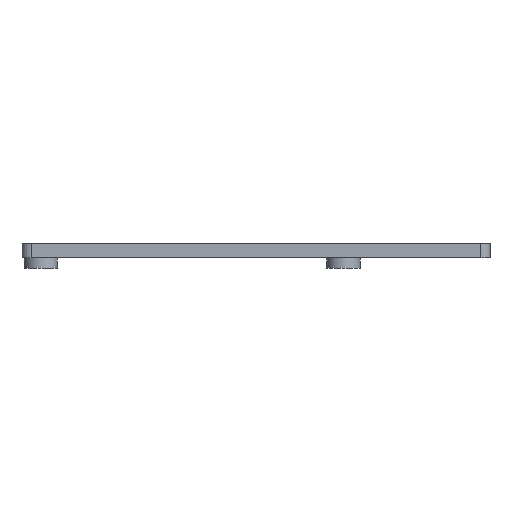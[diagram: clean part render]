
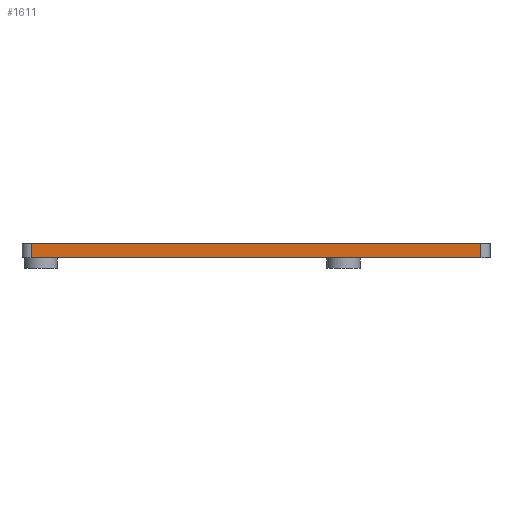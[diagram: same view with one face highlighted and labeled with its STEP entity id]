
A CAD part, front view. The second image highlights one B-rep face of the part: STEP entity #1611.
In plain terms, the highlighted planar face has unit normal (0, -1, 0).
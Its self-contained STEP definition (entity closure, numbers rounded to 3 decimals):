
#184 = PLANE('',#185);
#185 = AXIS2_PLACEMENT_3D('',#186,#187,#188);
#186 = CARTESIAN_POINT('',(-42.,-45.,37.));
#187 = DIRECTION('',(0.,0.,1.));
#188 = DIRECTION('',(1.,0.,-0.));
#806 = VERTEX_POINT('',#807);
#807 = CARTESIAN_POINT('',(-42.,-45.,37.));
#829 = EDGE_CURVE('',#806,#830,#832,.T.);
#830 = VERTEX_POINT('',#831);
#831 = CARTESIAN_POINT('',(53.,-45.,37.));
#832 = SURFACE_CURVE('',#833,(#837,#844),.PCURVE_S1.);
#833 = LINE('',#834,#835);
#834 = CARTESIAN_POINT('',(-42.,-45.,37.));
#835 = VECTOR('',#836,1.);
#836 = DIRECTION('',(1.,0.,-0.));
#837 = PCURVE('',#184,#838);
#838 = DEFINITIONAL_REPRESENTATION('',(#839),#843);
#839 = LINE('',#840,#841);
#840 = CARTESIAN_POINT('',(0.,0.));
#841 = VECTOR('',#842,1.);
#842 = DIRECTION('',(1.,0.));
#843 = ( GEOMETRIC_REPRESENTATION_CONTEXT(2) 
PARAMETRIC_REPRESENTATION_CONTEXT() REPRESENTATION_CONTEXT('2D SPACE',''
  ) );
#844 = PCURVE('',#845,#850);
#845 = PLANE('',#846);
#846 = AXIS2_PLACEMENT_3D('',#847,#848,#849);
#847 = CARTESIAN_POINT('',(-42.,-45.,37.));
#848 = DIRECTION('',(-0.,1.,0.));
#849 = DIRECTION('',(0.,0.,1.));
#850 = DEFINITIONAL_REPRESENTATION('',(#851),#855);
#851 = LINE('',#852,#853);
#852 = CARTESIAN_POINT('',(0.,0.));
#853 = VECTOR('',#854,1.);
#854 = DIRECTION('',(0.,1.));
#855 = ( GEOMETRIC_REPRESENTATION_CONTEXT(2) 
PARAMETRIC_REPRESENTATION_CONTEXT() REPRESENTATION_CONTEXT('2D SPACE',''
  ) );
#1453 = CYLINDRICAL_SURFACE('',#1454,2.);
#1454 = AXIS2_PLACEMENT_3D('',#1455,#1456,#1457);
#1455 = CARTESIAN_POINT('',(-42.,-43.,37.));
#1456 = DIRECTION('',(0.,0.,1.));
#1457 = DIRECTION('',(1.,0.,-0.));
#1611 = ADVANCED_FACE('',(#1612),#845,.F.);
#1612 = FACE_BOUND('',#1613,.F.);
#1613 = EDGE_LOOP('',(#1614,#1615,#1638,#1666));
#1614 = ORIENTED_EDGE('',*,*,#829,.F.);
#1615 = ORIENTED_EDGE('',*,*,#1616,.T.);
#1616 = EDGE_CURVE('',#806,#1617,#1619,.T.);
#1617 = VERTEX_POINT('',#1618);
#1618 = CARTESIAN_POINT('',(-42.,-45.,40.));
#1619 = SURFACE_CURVE('',#1620,(#1624,#1631),.PCURVE_S1.);
#1620 = LINE('',#1621,#1622);
#1621 = CARTESIAN_POINT('',(-42.,-45.,37.));
#1622 = VECTOR('',#1623,1.);
#1623 = DIRECTION('',(0.,0.,1.));
#1624 = PCURVE('',#845,#1625);
#1625 = DEFINITIONAL_REPRESENTATION('',(#1626),#1630);
#1626 = LINE('',#1627,#1628);
#1627 = CARTESIAN_POINT('',(0.,0.));
#1628 = VECTOR('',#1629,1.);
#1629 = DIRECTION('',(1.,0.));
#1630 = ( GEOMETRIC_REPRESENTATION_CONTEXT(2) 
PARAMETRIC_REPRESENTATION_CONTEXT() REPRESENTATION_CONTEXT('2D SPACE',''
  ) );
#1631 = PCURVE('',#1453,#1632);
#1632 = DEFINITIONAL_REPRESENTATION('',(#1633),#1637);
#1633 = LINE('',#1634,#1635);
#1634 = CARTESIAN_POINT('',(4.712,0.));
#1635 = VECTOR('',#1636,1.);
#1636 = DIRECTION('',(0.,1.));
#1637 = ( GEOMETRIC_REPRESENTATION_CONTEXT(2) 
PARAMETRIC_REPRESENTATION_CONTEXT() REPRESENTATION_CONTEXT('2D SPACE',''
  ) );
#1638 = ORIENTED_EDGE('',*,*,#1639,.T.);
#1639 = EDGE_CURVE('',#1617,#1640,#1642,.T.);
#1640 = VERTEX_POINT('',#1641);
#1641 = CARTESIAN_POINT('',(53.,-45.,40.));
#1642 = SURFACE_CURVE('',#1643,(#1647,#1654),.PCURVE_S1.);
#1643 = LINE('',#1644,#1645);
#1644 = CARTESIAN_POINT('',(-42.,-45.,40.));
#1645 = VECTOR('',#1646,1.);
#1646 = DIRECTION('',(1.,0.,-0.));
#1647 = PCURVE('',#845,#1648);
#1648 = DEFINITIONAL_REPRESENTATION('',(#1649),#1653);
#1649 = LINE('',#1650,#1651);
#1650 = CARTESIAN_POINT('',(3.,0.));
#1651 = VECTOR('',#1652,1.);
#1652 = DIRECTION('',(0.,1.));
#1653 = ( GEOMETRIC_REPRESENTATION_CONTEXT(2) 
PARAMETRIC_REPRESENTATION_CONTEXT() REPRESENTATION_CONTEXT('2D SPACE',''
  ) );
#1654 = PCURVE('',#1655,#1660);
#1655 = PLANE('',#1656);
#1656 = AXIS2_PLACEMENT_3D('',#1657,#1658,#1659);
#1657 = CARTESIAN_POINT('',(-42.,-45.,40.));
#1658 = DIRECTION('',(0.,0.,1.));
#1659 = DIRECTION('',(1.,0.,-0.));
#1660 = DEFINITIONAL_REPRESENTATION('',(#1661),#1665);
#1661 = LINE('',#1662,#1663);
#1662 = CARTESIAN_POINT('',(0.,0.));
#1663 = VECTOR('',#1664,1.);
#1664 = DIRECTION('',(1.,0.));
#1665 = ( GEOMETRIC_REPRESENTATION_CONTEXT(2) 
PARAMETRIC_REPRESENTATION_CONTEXT() REPRESENTATION_CONTEXT('2D SPACE',''
  ) );
#1666 = ORIENTED_EDGE('',*,*,#1667,.F.);
#1667 = EDGE_CURVE('',#830,#1640,#1668,.T.);
#1668 = SURFACE_CURVE('',#1669,(#1673,#1680),.PCURVE_S1.);
#1669 = LINE('',#1670,#1671);
#1670 = CARTESIAN_POINT('',(53.,-45.,37.));
#1671 = VECTOR('',#1672,1.);
#1672 = DIRECTION('',(0.,0.,1.));
#1673 = PCURVE('',#845,#1674);
#1674 = DEFINITIONAL_REPRESENTATION('',(#1675),#1679);
#1675 = LINE('',#1676,#1677);
#1676 = CARTESIAN_POINT('',(0.,95.));
#1677 = VECTOR('',#1678,1.);
#1678 = DIRECTION('',(1.,0.));
#1679 = ( GEOMETRIC_REPRESENTATION_CONTEXT(2) 
PARAMETRIC_REPRESENTATION_CONTEXT() REPRESENTATION_CONTEXT('2D SPACE',''
  ) );
#1680 = PCURVE('',#1681,#1686);
#1681 = CYLINDRICAL_SURFACE('',#1682,2.);
#1682 = AXIS2_PLACEMENT_3D('',#1683,#1684,#1685);
#1683 = CARTESIAN_POINT('',(53.,-43.,37.));
#1684 = DIRECTION('',(0.,0.,1.));
#1685 = DIRECTION('',(1.,0.,-0.));
#1686 = DEFINITIONAL_REPRESENTATION('',(#1687),#1691);
#1687 = LINE('',#1688,#1689);
#1688 = CARTESIAN_POINT('',(4.712,0.));
#1689 = VECTOR('',#1690,1.);
#1690 = DIRECTION('',(0.,1.));
#1691 = ( GEOMETRIC_REPRESENTATION_CONTEXT(2) 
PARAMETRIC_REPRESENTATION_CONTEXT() REPRESENTATION_CONTEXT('2D SPACE',''
  ) );
